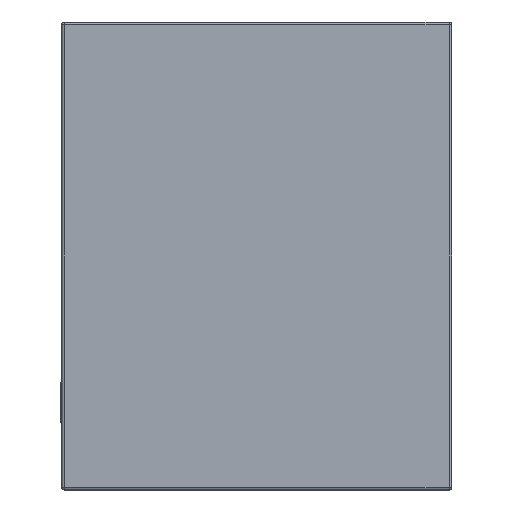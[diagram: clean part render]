
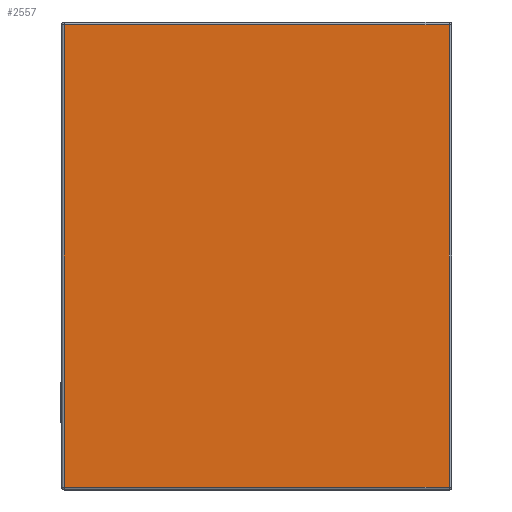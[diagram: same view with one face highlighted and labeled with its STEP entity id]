
A CAD part, left-side view. The second image highlights one B-rep face of the part: STEP entity #2557.
In plain terms, the highlighted planar face has unit normal (-1, 0, 0).
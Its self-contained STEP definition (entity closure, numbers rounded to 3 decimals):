
#1079 = ORIENTED_EDGE ( 'NONE', *, *, #4717, .T. ) ;
#1843 = DIRECTION ( 'NONE',  ( 0., -1., 0. ) ) ;
#1898 = CARTESIAN_POINT ( 'NONE',  ( -25., 29.8, -18. ) ) ;
#2110 = VECTOR ( 'NONE', #4666, 1000. ) ;
#2557 = ADVANCED_FACE ( 'NONE', ( #5872 ), #7023, .F. ) ;
#2942 = ORIENTED_EDGE ( 'NONE', *, *, #11580, .T. ) ;
#3012 = DIRECTION ( 'NONE',  ( 0., 1., 0. ) ) ;
#3087 = CARTESIAN_POINT ( 'NONE',  ( -25., 0.2, -17.8 ) ) ;
#3417 = LINE ( 'NONE', #8078, #7877 ) ;
#3892 = CARTESIAN_POINT ( 'NONE',  ( -25., 29.8, 17.8 ) ) ;
#3950 = EDGE_LOOP ( 'NONE', ( #1079, #9472, #8047, #2942 ) ) ;
#4108 = VECTOR ( 'NONE', #3012, 1000. ) ;
#4531 = LINE ( 'NONE', #1898, #11100 ) ;
#4605 = DIRECTION ( 'NONE',  ( 0., 0., -1. ) ) ;
#4666 = DIRECTION ( 'NONE',  ( 0., 0., 1. ) ) ;
#4677 = CARTESIAN_POINT ( 'NONE',  ( -25., 0.2, 17.8 ) ) ;
#4717 = EDGE_CURVE ( 'NONE', #7180, #9944, #4531, .T. ) ;
#5287 = DIRECTION ( 'NONE',  ( 1., 0., 0. ) ) ;
#5694 = CARTESIAN_POINT ( 'NONE',  ( -25., 30., 17.8 ) ) ;
#5872 = FACE_OUTER_BOUND ( 'NONE', #3950, .T. ) ;
#6052 = VERTEX_POINT ( 'NONE', #4677 ) ;
#6710 = CARTESIAN_POINT ( 'NONE',  ( -25., 29.8, -17.8 ) ) ;
#7023 = PLANE ( 'NONE',  #8993 ) ;
#7026 = EDGE_CURVE ( 'NONE', #7293, #6052, #8944, .T. ) ;
#7180 = VERTEX_POINT ( 'NONE', #3892 ) ;
#7293 = VERTEX_POINT ( 'NONE', #3087 ) ;
#7877 = VECTOR ( 'NONE', #1843, 1000. ) ;
#8047 = ORIENTED_EDGE ( 'NONE', *, *, #7026, .T. ) ;
#8078 = CARTESIAN_POINT ( 'NONE',  ( -25., 30., -17.8 ) ) ;
#8944 = LINE ( 'NONE', #9983, #2110 ) ;
#8993 = AXIS2_PLACEMENT_3D ( 'NONE', #10620, #5287, #11501 ) ;
#9472 = ORIENTED_EDGE ( 'NONE', *, *, #11080, .T. ) ;
#9944 = VERTEX_POINT ( 'NONE', #6710 ) ;
#9983 = CARTESIAN_POINT ( 'NONE',  ( -25., 0.2, -18. ) ) ;
#10620 = CARTESIAN_POINT ( 'NONE',  ( -25., 30., -18. ) ) ;
#11080 = EDGE_CURVE ( 'NONE', #9944, #7293, #3417, .T. ) ;
#11100 = VECTOR ( 'NONE', #4605, 1000. ) ;
#11226 = LINE ( 'NONE', #5694, #4108 ) ;
#11501 = DIRECTION ( 'NONE',  ( 0., 0., -1. ) ) ;
#11580 = EDGE_CURVE ( 'NONE', #6052, #7180, #11226, .T. ) ;
